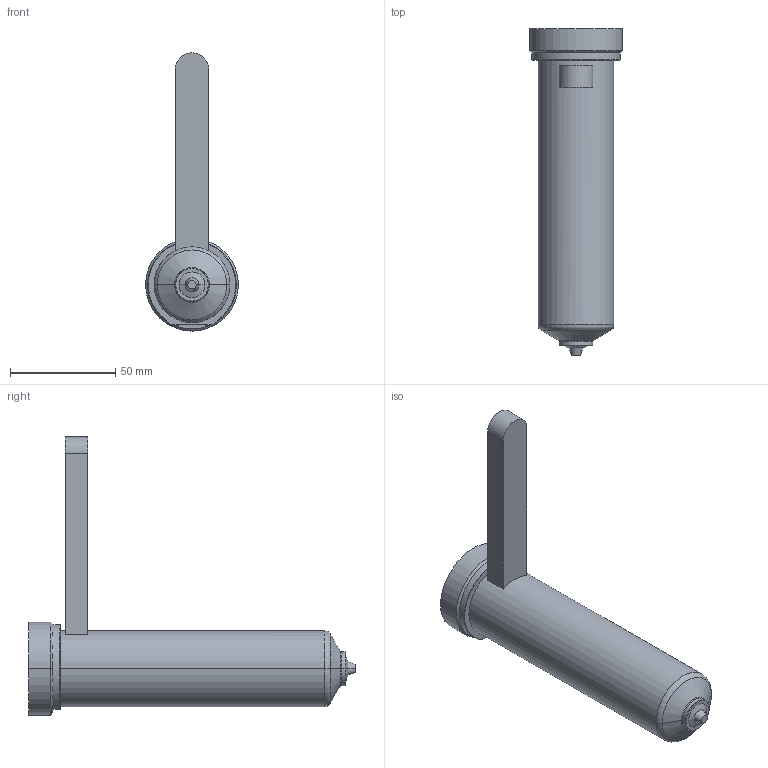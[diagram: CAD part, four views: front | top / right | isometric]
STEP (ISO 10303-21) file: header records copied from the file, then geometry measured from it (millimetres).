
FILE_DESCRIPTION((''),'2;1');
FILE_NAME('EO12_VG-BL_WR_140_COT','2024-02-19T13:16:49',('sundharh'),(''),'CREO PARAMETRIC BY PTC INC, 2023154','CREO PARAMETRIC BY PTC INC, 2023154','');
FILE_SCHEMA(('CONFIG_CONTROL_DESIGN'));
Length unit declared in the file: millimetre
Products named in the file (1): EO12_VG-BL_WR_140_COT
Bounding box: 44 x 155 x 132 mm (x, y, z)
Volume: 170775.5 mm3; surface area: 24437.4 mm2
Topology: 1 solids, 1 shells, 38 faces, 81 edges, 48 vertices
Faces by surface type: cylinder 11, plane 10, torus 9, cone 6, sphere 2
Entity records: 1135 total; most frequent: CARTESIAN_POINT 247, DIRECTION 199, ORIENTED_EDGE 162, AXIS2_PLACEMENT_3D 86, EDGE_CURVE 81, VERTEX_POINT 48, CIRCLE 48, EDGE_LOOP 41
